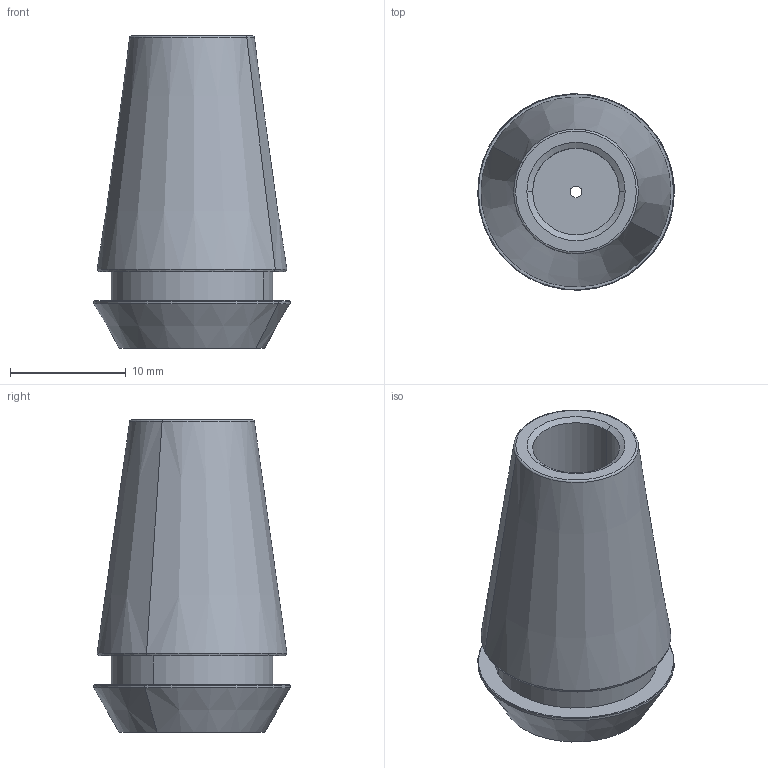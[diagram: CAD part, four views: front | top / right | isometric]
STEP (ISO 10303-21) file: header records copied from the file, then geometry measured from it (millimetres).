
FILE_DESCRIPTION(('CATIA V5 STEP','CAx-IF Rec.Pracs.--- Model Styling and Organization---1.2---2011-12-15'),'2;1');
FILE_NAME('\\nas01\drv1\utils\eitdev\rte\eit\transmagicconvert\db\out\635856830492625767\4511357 M.stp','2015-12-14T07:44:21+00:00',('none'),('none'),'CATIA Version 5 Release 21 SP 5 (IN-10)','CATIA V5 STEP AP214','none');
FILE_SCHEMA(('AUTOMOTIVE_DESIGN { 1 0 10303 214 1 1 1 1 }'));
Length unit declared in the file: millimetre
Products named in the file (1): ER16 SPR 0.5-1 AA
Bounding box: 17 x 17 x 27 mm (x, y, z)
Volume: 3556.9 mm3; surface area: 1883 mm2
Topology: 1 solids, 1 shells, 30 faces, 63 edges, 38 vertices
Faces by surface type: cone 14, cylinder 8, plane 5, torus 3
Entity records: 929 total; most frequent: CARTESIAN_POINT 273, ORIENTED_EDGE 126, DIRECTION 119, AXIS2_PLACEMENT_3D 66, EDGE_CURVE 63, VERTEX_POINT 38, EDGE_LOOP 35, CIRCLE 33
